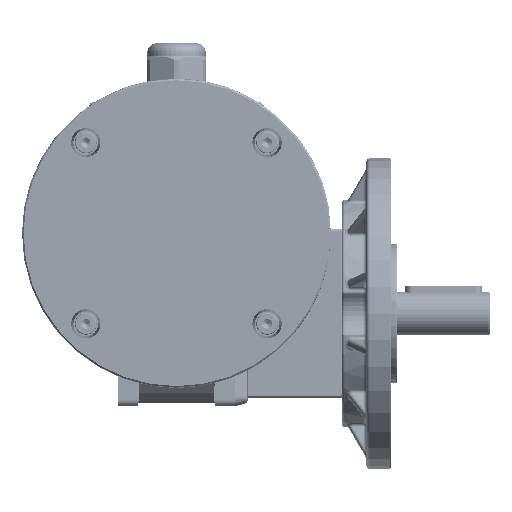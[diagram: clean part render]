
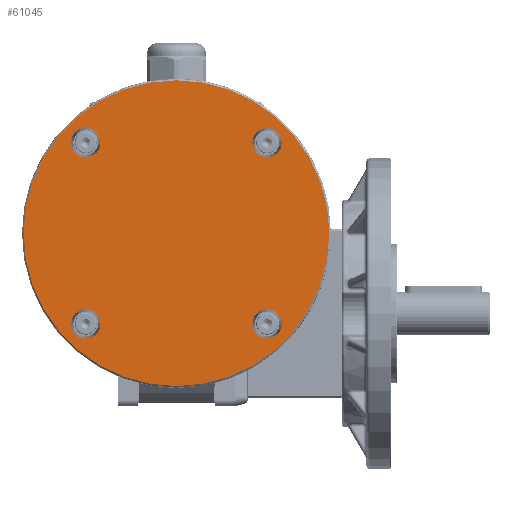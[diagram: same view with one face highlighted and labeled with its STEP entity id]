
A CAD part, left-side view. The second image highlights one B-rep face of the part: STEP entity #61045.
In plain terms, the highlighted planar face has unit normal (-1, 0, 0).
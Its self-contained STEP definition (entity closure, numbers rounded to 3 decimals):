
#12784=PLANE($,#66564);
#15616=FACE_BOUND($,#21929,.T.);
#15617=FACE_BOUND($,#21930,.T.);
#15618=FACE_BOUND($,#21931,.T.);
#15619=FACE_BOUND($,#21932,.T.);
#15620=FACE_BOUND($,#21933,.T.);
#21929=EDGE_LOOP($,(#50994));
#21930=EDGE_LOOP($,(#50995));
#21931=EDGE_LOOP($,(#50996));
#21932=EDGE_LOOP($,(#50997));
#21933=EDGE_LOOP($,(#50998));
#25389=CIRCLE($,#66450,4.75);
#25392=CIRCLE($,#66456,4.75);
#25395=CIRCLE($,#66462,4.75);
#25398=CIRCLE($,#66468,4.75);
#25426=CIRCLE($,#66563,49.5);
#29901=VERTEX_POINT($,#100498);
#29904=VERTEX_POINT($,#100507);
#29907=VERTEX_POINT($,#100516);
#29910=VERTEX_POINT($,#100525);
#29981=VERTEX_POINT($,#101087);
#37237=EDGE_CURVE($,#29901,#29901,#25389,.T.);
#37240=EDGE_CURVE($,#29904,#29904,#25392,.T.);
#37243=EDGE_CURVE($,#29907,#29907,#25395,.T.);
#37246=EDGE_CURVE($,#29910,#29910,#25398,.T.);
#37362=EDGE_CURVE($,#29981,#29981,#25426,.T.);
#50994=ORIENTED_EDGE($,*,*,#37237,.T.);
#50995=ORIENTED_EDGE($,*,*,#37240,.T.);
#50996=ORIENTED_EDGE($,*,*,#37243,.T.);
#50997=ORIENTED_EDGE($,*,*,#37246,.T.);
#50998=ORIENTED_EDGE($,*,*,#37362,.F.);
#61045=ADVANCED_FACE($,(#15616,#15617,#15618,#15619,#15620),#12784,.F.);
#66450=AXIS2_PLACEMENT_3D($,#100499,#79700,#79701);
#66456=AXIS2_PLACEMENT_3D($,#100508,#79712,#79713);
#66462=AXIS2_PLACEMENT_3D($,#100517,#79724,#79725);
#66468=AXIS2_PLACEMENT_3D($,#100526,#79736,#79737);
#66563=AXIS2_PLACEMENT_3D($,#101088,#79986,#79987);
#66564=AXIS2_PLACEMENT_3D($,#101089,#79988,#79989);
#79700=DIRECTION('center_axis',(1.,0.,0.));
#79701=DIRECTION('ref_axis',(0.,0.707,0.707));
#79712=DIRECTION('center_axis',(1.,0.,0.));
#79713=DIRECTION('ref_axis',(0.,0.707,-0.707));
#79724=DIRECTION('center_axis',(1.,0.,0.));
#79725=DIRECTION('ref_axis',(0.,-0.707,-0.707));
#79736=DIRECTION('center_axis',(1.,0.,0.));
#79737=DIRECTION('ref_axis',(0.,-0.707,0.707));
#79986=DIRECTION('center_axis',(1.,0.,0.));
#79987=DIRECTION('ref_axis',(0.,0.,
-1.));
#79988=DIRECTION('center_axis',(1.,0.,0.));
#79989=DIRECTION('ref_axis',(0.,0.,-1.));
#100498=CARTESIAN_POINT('',(-59.,32.704,32.704));
#100499=CARTESIAN_POINT('Origin',(-59.,29.345,29.345));
#100507=CARTESIAN_POINT('',(-59.,32.704,-32.704));
#100508=CARTESIAN_POINT('Origin',(-59.,29.345,-29.345));
#100516=CARTESIAN_POINT('',(-59.,-32.704,-32.704));
#100517=CARTESIAN_POINT('Origin',(-59.,-29.345,-29.345));
#100525=CARTESIAN_POINT('',(-59.,-32.704,32.704));
#100526=CARTESIAN_POINT('Origin',(-59.,-29.345,29.345));
#101087=CARTESIAN_POINT('',(-59.,0.,49.5));
#101088=CARTESIAN_POINT('Origin',(-59.,0.,0.));
#101089=CARTESIAN_POINT('Origin',(-59.,0.,0.));
